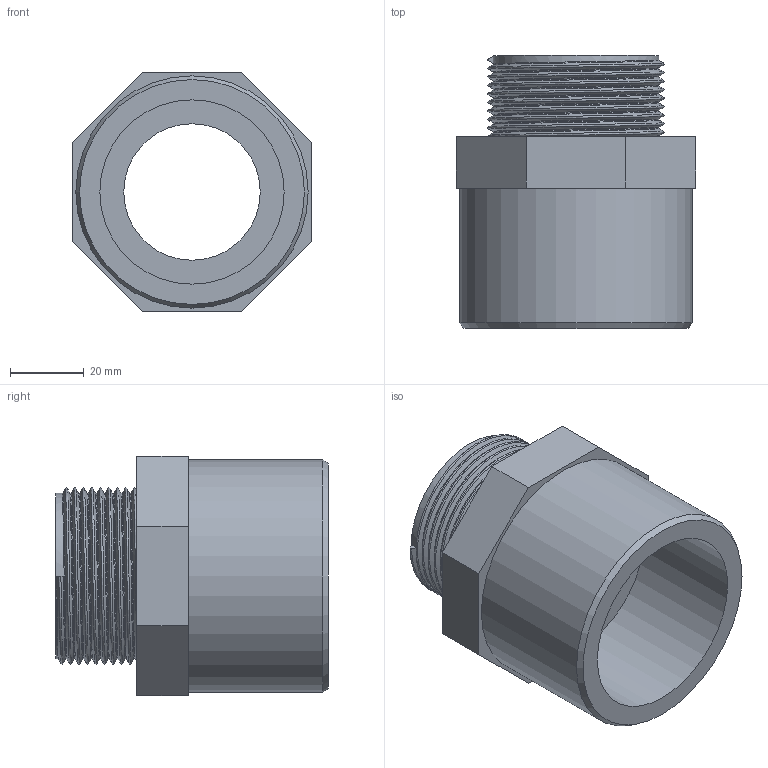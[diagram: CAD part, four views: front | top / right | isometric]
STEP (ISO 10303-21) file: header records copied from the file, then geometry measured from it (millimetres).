
FILE_DESCRIPTION(/* description */ ('PVC adattatore incollaggio-filettatura BSP maschio'),/* implementation_level */ '2;1');
FILE_NAME(/* name */ 'C:\Users\POLYPIPE\Desktop\DATASET INVENTOR\LIBRERIA EFFAST\RACCORDI 3DxWEB\RGR\3D_RGRAMG\3D_RGRAMG050F.stp',/* time_stamp */ '2018-01-19T17:36:17+01:00',/* author */ ('POLYPIPE'),/* organization */ ('Polypipe Italia s.r.l.'),/* preprocessor_version */ 'ST-DEVELOPER v16.1',/* originating_system */ 'Autodesk Inventor 2016',/* authorisation */ '');
FILE_SCHEMA (('CONFIG_CONTROL_DESIGN'));
Length unit declared in the file: millimetre
Products named in the file (1): 3D_RGRAMG
Bounding box: 65 x 74 x 65 mm (x, y, z)
Volume: 94587.2 mm3; surface area: 30494.7 mm2
Topology: 1 solids, 1 shells, 26 faces, 56 edges, 36 vertices
Faces by surface type: plane 15, cylinder 5, bspline 5, cone 1
Full cylindrical faces by diameter (mm): 37 x1, 38 x1, 44.845 x1, 50 x1, 63 x1
Entity records: 4147 total; most frequent: CARTESIAN_POINT 3594, ORIENTED_EDGE 102, DIRECTION 97, EDGE_CURVE 51, EDGE_LOOP 37, VERTEX_POINT 36, AXIS2_PLACEMENT_3D 35, LINE 27
